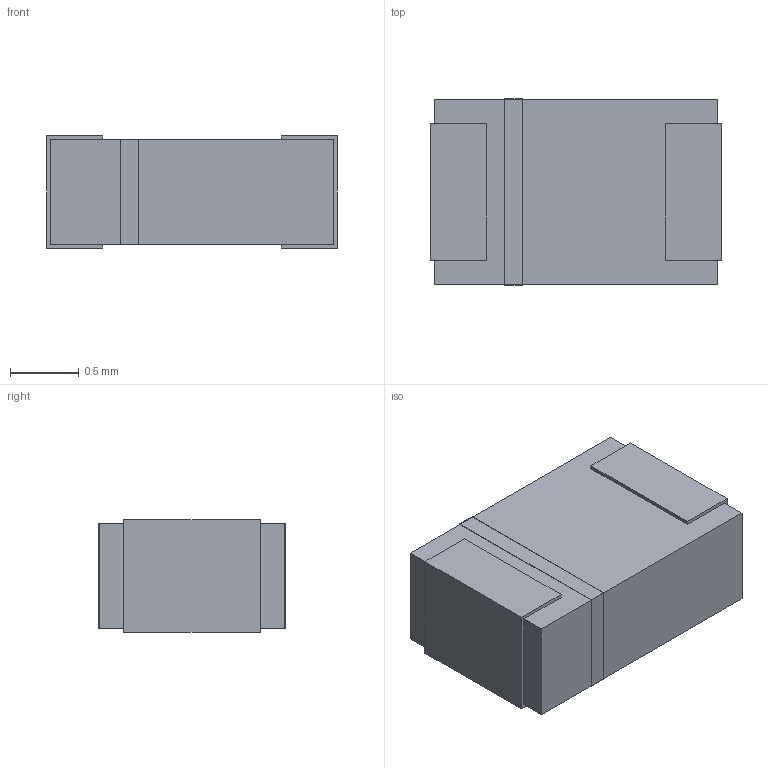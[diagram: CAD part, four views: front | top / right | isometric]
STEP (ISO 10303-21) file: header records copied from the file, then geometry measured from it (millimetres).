
FILE_DESCRIPTION(('STEP AP214'),'1');
FILE_NAME('LED_BS75000_WRE','2026-09-17T06:58:51',(''),(''),'','','');
FILE_SCHEMA(('AUTOMOTIVE_DESIGN'));
Length unit declared in the file: millimetre
Products named in the file (1): product
Bounding box: 2.11 x 1.35 x 0.81 mm (x, y, z)
Volume: 2.2 mm3; surface area: 18.3 mm2
Topology: 4 solids, 4 shells, 38 faces, 88 edges, 56 vertices
Faces by surface type: plane 38
Entity records: 1164 total; most frequent: ORIENTED_EDGE 176, DIRECTION 166, CARTESIAN_POINT 95, EDGE_CURVE 88, LINE 88, VECTOR 88, VERTEX_POINT 56, AXIS2_PLACEMENT_3D 39
